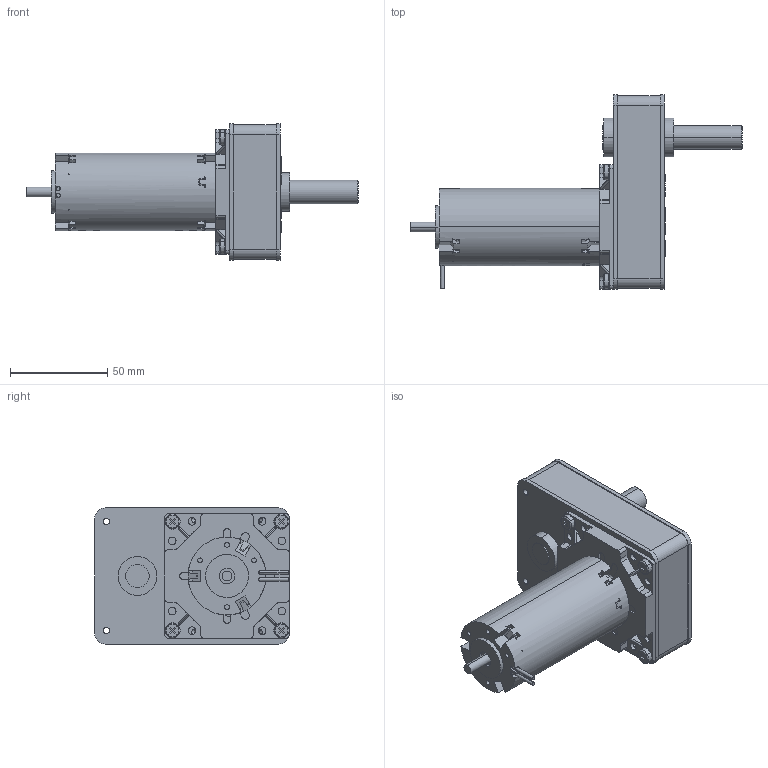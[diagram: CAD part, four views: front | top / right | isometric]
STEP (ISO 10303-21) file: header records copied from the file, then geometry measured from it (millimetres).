
FILE_DESCRIPTION (( 'STEP AP214' ), '1' );
FILE_NAME ('1.13.049_+_sgp100.STEP', '2014-03-07T08:03:04', ( '' ), ( '' ), 'SwSTEP 2.0', 'SolidWorks 2013', '' );
FILE_SCHEMA (( 'AUTOMOTIVE_DESIGN' ));
Length unit declared in the file: millimetre
Products named in the file (6): SGP100S_Part; Tc_cruci_M4x10; Adapt_G42ﾗ40_&_BG44_+_SGP67S; 1.13.049.401_3; 1.13.049_+_sgp100
Assembly tree (8 placements, depth 3):
  1.13.049_+_sgp100
    1.13.049.401_3
      1.13.049.401_3
    Adapt_G42ﾗ40_&_BG44_+_SGP67S
    Tc_cruci_M4x10  x4
    SGP100S_Part
Bounding box: 170.5 x 100 x 70 mm (x, y, z)
Volume: 187146.7 mm3; surface area: 58285.2 mm2
Topology: 6 solids, 7 shells, 829 faces, 2371 edges, 1528 vertices
Faces by surface type: cylinder 347, plane 341, cone 76, bspline 49, torus 16
Entity records: 33449 total; most frequent: CARTESIAN_POINT 9216, ORIENTED_EDGE 4243, DIRECTION 3629, EDGE_CURVE 2124, VERTEX_POINT 1396, AXIS2_PLACEMENT_3D 1250, LINE 1129, VECTOR 1129
